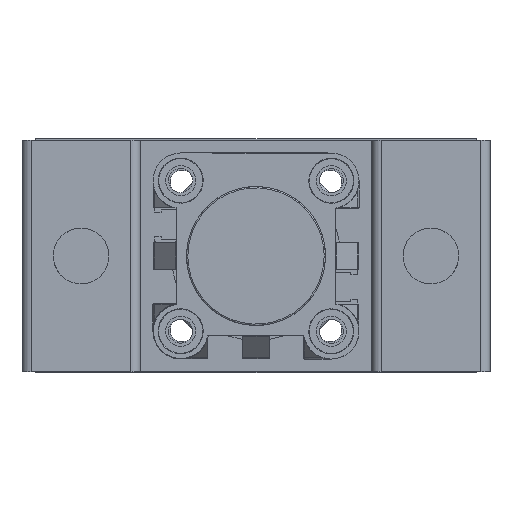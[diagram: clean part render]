
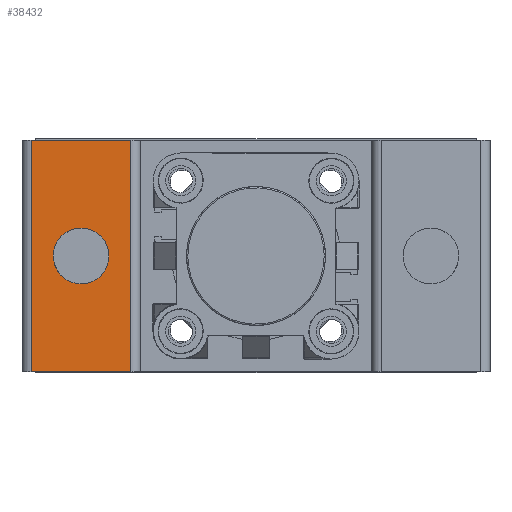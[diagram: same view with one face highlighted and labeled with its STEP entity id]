
A CAD part, front view. The second image highlights one B-rep face of the part: STEP entity #38432.
In plain terms, the highlighted planar face has unit normal (0, -1, 0).
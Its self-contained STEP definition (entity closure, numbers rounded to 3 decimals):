
#243 = ORIENTED_EDGE ( 'NONE', *, *, #458, .F. ) ;
#408 = CIRCLE ( 'NONE', #33659, 6. ) ;
#458 = EDGE_CURVE ( 'NONE', #13235, #36059, #15980, .T. ) ;
#1048 = VECTOR ( 'NONE', #8415, 1000. ) ;
#1964 = VECTOR ( 'NONE', #3503, 1000. ) ;
#2310 = EDGE_CURVE ( 'NONE', #36059, #13235, #408, .T. ) ;
#3054 = CARTESIAN_POINT ( 'NONE',  ( 2., -115., 0. ) ) ;
#3382 = AXIS2_PLACEMENT_3D ( 'NONE', #4716, #27069, #7921 ) ;
#3503 = DIRECTION ( 'NONE',  ( 0., 0., -1. ) ) ;
#4280 = EDGE_CURVE ( 'NONE', #7954, #19787, #14771, .T. ) ;
#4350 = FACE_BOUND ( 'NONE', #23949, .T. ) ;
#4615 = CARTESIAN_POINT ( 'NONE',  ( 0., -115., 50. ) ) ;
#4716 = CARTESIAN_POINT ( 'NONE',  ( 12.75, -115., 25. ) ) ;
#6763 = VERTEX_POINT ( 'NONE', #19459 ) ;
#7921 = DIRECTION ( 'NONE',  ( 0., 0., -1. ) ) ;
#7954 = VERTEX_POINT ( 'NONE', #25550 ) ;
#8415 = DIRECTION ( 'NONE',  ( 0., 0., -1. ) ) ;
#9364 = ORIENTED_EDGE ( 'NONE', *, *, #4280, .F. ) ;
#11141 = ORIENTED_EDGE ( 'NONE', *, *, #21007, .T. ) ;
#11444 = DIRECTION ( 'NONE',  ( -1., 0., 0. ) ) ;
#13065 = DIRECTION ( 'NONE',  ( -1., 0., 0. ) ) ;
#13235 = VERTEX_POINT ( 'NONE', #40033 ) ;
#13510 = EDGE_LOOP ( 'NONE', ( #9364, #27634, #32261, #11141 ) ) ;
#14077 = PLANE ( 'NONE',  #14092 ) ;
#14092 = AXIS2_PLACEMENT_3D ( 'NONE', #4615, #33401, #14214 ) ;
#14214 = DIRECTION ( 'NONE',  ( 0., 0., -1. ) ) ;
#14771 = LINE ( 'NONE', #35458, #38364 ) ;
#15216 = VERTEX_POINT ( 'NONE', #17820 ) ;
#15980 = CIRCLE ( 'NONE', #3382, 6. ) ;
#16257 = LINE ( 'NONE', #33820, #24760 ) ;
#16329 = CARTESIAN_POINT ( 'NONE',  ( 12.75, -115., 25. ) ) ;
#16611 = EDGE_CURVE ( 'NONE', #6763, #7954, #27482, .T. ) ;
#17820 = CARTESIAN_POINT ( 'NONE',  ( 2., -115., 50. ) ) ;
#18202 = ORIENTED_EDGE ( 'NONE', *, *, #2310, .F. ) ;
#19459 = CARTESIAN_POINT ( 'NONE',  ( 23.5, -115., 50. ) ) ;
#19534 = DIRECTION ( 'NONE',  ( 0., 0., -1. ) ) ;
#19787 = VERTEX_POINT ( 'NONE', #3054 ) ;
#21007 = EDGE_CURVE ( 'NONE', #15216, #19787, #36081, .T. ) ;
#23949 = EDGE_LOOP ( 'NONE', ( #18202, #243 ) ) ;
#24329 = CARTESIAN_POINT ( 'NONE',  ( 2., -115., 50. ) ) ;
#24760 = VECTOR ( 'NONE', #11444, 1000. ) ;
#25550 = CARTESIAN_POINT ( 'NONE',  ( 23.5, -115., 0. ) ) ;
#25849 = CARTESIAN_POINT ( 'NONE',  ( 23.5, -115., 50. ) ) ;
#27069 = DIRECTION ( 'NONE',  ( 0., -1., 0. ) ) ;
#27482 = LINE ( 'NONE', #25849, #1964 ) ;
#27634 = ORIENTED_EDGE ( 'NONE', *, *, #16611, .F. ) ;
#28705 = EDGE_CURVE ( 'NONE', #6763, #15216, #16257, .T. ) ;
#32261 = ORIENTED_EDGE ( 'NONE', *, *, #28705, .T. ) ;
#33401 = DIRECTION ( 'NONE',  ( 0., -1., 0. ) ) ;
#33659 = AXIS2_PLACEMENT_3D ( 'NONE', #16329, #38743, #19534 ) ;
#33820 = CARTESIAN_POINT ( 'NONE',  ( 0., -115., 50. ) ) ;
#35458 = CARTESIAN_POINT ( 'NONE',  ( 0., -115., 0. ) ) ;
#36059 = VERTEX_POINT ( 'NONE', #38101 ) ;
#36081 = LINE ( 'NONE', #24329, #1048 ) ;
#37368 = FACE_OUTER_BOUND ( 'NONE', #13510, .T. ) ;
#38101 = CARTESIAN_POINT ( 'NONE',  ( 12.75, -115., 31. ) ) ;
#38364 = VECTOR ( 'NONE', #13065, 1000. ) ;
#38432 = ADVANCED_FACE ( 'NONE', ( #4350, #37368 ), #14077, .T. ) ;
#38743 = DIRECTION ( 'NONE',  ( 0., -1., 0. ) ) ;
#40033 = CARTESIAN_POINT ( 'NONE',  ( 12.75, -115., 19. ) ) ;
